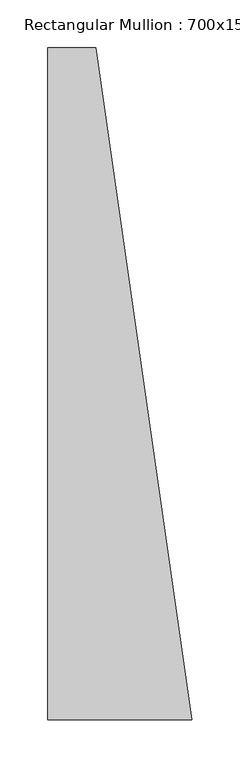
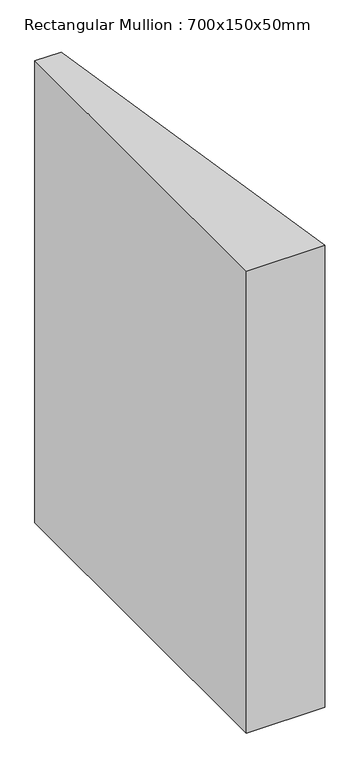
"""IFC4 building model written with IfcOpenShell, lengths in millimetres: member geometry, Rectangular Mullion : 700x150x50mm."""

from ifc_helpers import new_model, si_unit, frame, origin, place, context, project, spatial, polyline, outline, extrude, source, transform, mapped, element, save


def rectangular_mullion_700x150x50mm_75e38a97(model_context):
    return source(origin(), model_context, "Body", "SweptSolid", [
        extrude(outline(polyline([(-150.0, -350.0), (-150.0, 350.0), (-100.0, 350.0), (0.0, -350.0), (-150.0, -350.0)])), frame((0.0, 0.0, -933.3110203), z_axis=(0.0, 0.0, 1.0), x_axis=(1.0, 0.0, 0.0)), (0.0, 0.0, 1.0), 933.3110203),
    ])


if __name__ == "__main__":
    model = new_model("IFC4")
    model_context = context("Model", 3, world=origin())
    ifc_project = project(units=[si_unit("LENGTHUNIT", "METRE", prefix="MILLI")], contexts=[model_context])
    site = spatial("IfcSite", under=ifc_project)
    building = spatial("IfcBuilding", under=site)
    placement = place(None, origin())
    rectangular_mullion_700x150x50mm_shape = rectangular_mullion_700x150x50mm_75e38a97(model_context)
    element("IfcMember", 1, ObjectType="Rectangular Mullion : 700x150x50mm", at=placement, inside=building, context=model_context, shape_type="MappedRepresentation", body=[
        mapped(rectangular_mullion_700x150x50mm_shape, transform((0.0, 0.0, 0.0), x_axis=(1.0, 0.0, 0.0), y_axis=(0.0, 1.0, 0.0), z_axis=(0.0, 0.0, 1.0))),
    ])
    save(model, "model.ifc")
